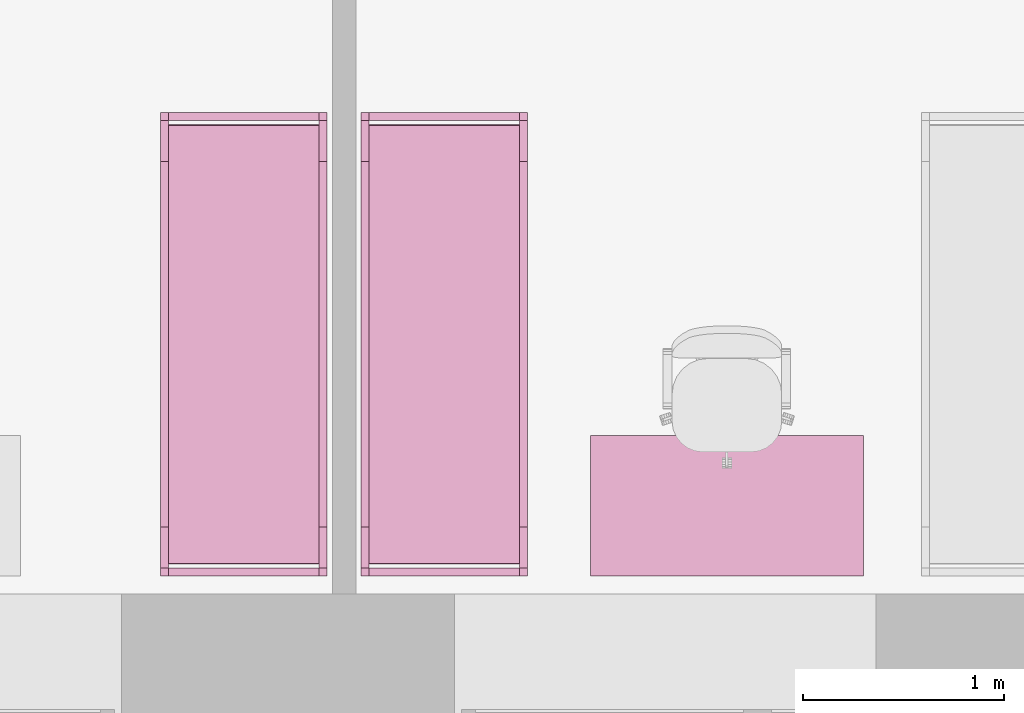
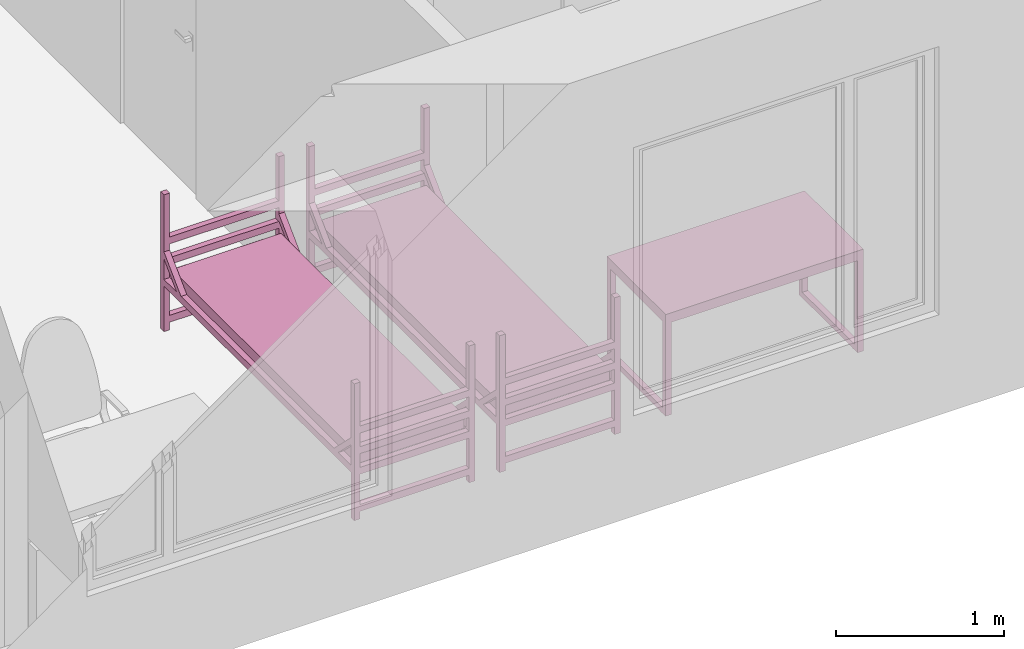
# One storey, part 35 of 46: 3 furnishings.
"""IFC2X3 building model written with IfcOpenShell, lengths in millimetres."""

from ifc_helpers import new_model, entity, si_unit, converted_unit, derived_unit, direction, frame, frame_2d, origin, origin_2d_with_axis, place, context, subcontext, project, spatial, polyline, circle_curve, parameter, trimmed, segment, composite_curve, rectangle, outline, extrude, faceted_brep, source, transform, mapped, material, material_list, type_object, type_shapes, element, save


model = new_model("IFC2X3")

# Units and contexts
model_context = context("Model", 3, precision=0.01, world=origin(), true_north=direction((6.12303176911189e-17, 1.0)))
body_context = subcontext(model_context, "Body", "Model", "MODEL_VIEW")
ifc_project = project(units=[si_unit("LENGTHUNIT", "METRE", prefix="MILLI"), si_unit("AREAUNIT", "SQUARE_METRE"), si_unit("VOLUMEUNIT", "CUBIC_METRE"), converted_unit("PLANEANGLEUNIT", "DEGREE", entity("IfcRatioMeasure", 0.0174532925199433), si_unit("PLANEANGLEUNIT", "RADIAN"), dimensions=[0, 0, 0, 0, 0, 0, 0]), si_unit("MASSUNIT", "GRAM", prefix="KILO"), derived_unit("MASSDENSITYUNIT", [(si_unit("MASSUNIT", "GRAM", prefix="KILO"), 1), (si_unit("LENGTHUNIT", "METRE"), -3)]), si_unit("TIMEUNIT", "SECOND"), si_unit("FREQUENCYUNIT", "HERTZ"), si_unit("THERMODYNAMICTEMPERATUREUNIT", "DEGREE_CELSIUS"), derived_unit("THERMALTRANSMITTANCEUNIT", [(si_unit("MASSUNIT", "GRAM", prefix="KILO"), 1), (si_unit("THERMODYNAMICTEMPERATUREUNIT", "KELVIN"), -1), (si_unit("TIMEUNIT", "SECOND"), -3)]), derived_unit("VOLUMETRICFLOWRATEUNIT", [(si_unit("LENGTHUNIT", "METRE"), 3), (si_unit("TIMEUNIT", "SECOND"), -1)]), si_unit("ELECTRICCURRENTUNIT", "AMPERE"), si_unit("ELECTRICVOLTAGEUNIT", "VOLT"), si_unit("POWERUNIT", "WATT"), si_unit("FORCEUNIT", "NEWTON", prefix="KILO"), si_unit("ILLUMINANCEUNIT", "LUX"), si_unit("LUMINOUSFLUXUNIT", "LUMEN"), si_unit("LUMINOUSINTENSITYUNIT", "CANDELA"), derived_unit("USERDEFINED", [(si_unit("MASSUNIT", "GRAM", prefix="KILO"), -1), (si_unit("LENGTHUNIT", "METRE"), -2), (si_unit("TIMEUNIT", "SECOND"), 3), (si_unit("LUMINOUSFLUXUNIT", "LUMEN"), 1)]), derived_unit("LINEARVELOCITYUNIT", [(si_unit("LENGTHUNIT", "METRE"), 1), (si_unit("TIMEUNIT", "SECOND"), -1)]), si_unit("PRESSUREUNIT", "PASCAL"), derived_unit("USERDEFINED", [(si_unit("LENGTHUNIT", "METRE"), -2), (si_unit("MASSUNIT", "GRAM", prefix="KILO"), 1), (si_unit("TIMEUNIT", "SECOND"), -2)]), derived_unit("LINEARFORCEUNIT", [(si_unit("MASSUNIT", "GRAM", prefix="KILO"), 1), (si_unit("LENGTHUNIT", "METRE"), 1), (si_unit("TIMEUNIT", "SECOND"), -2), (si_unit("LENGTHUNIT", "METRE"), -1)]), derived_unit("PLANARFORCEUNIT", [(si_unit("MASSUNIT", "GRAM", prefix="KILO"), 1), (si_unit("LENGTHUNIT", "METRE"), 1), (si_unit("TIMEUNIT", "SECOND"), -2), (si_unit("LENGTHUNIT", "METRE"), -2)])], contexts=[model_context])

# Site, building, storey, space
site_placement = place(None, origin())
site = spatial("IfcSite", under=ifc_project, at=site_placement, Name="Default", CompositionType="ELEMENT")
building_placement = place(site_placement, origin())
building = spatial("IfcBuilding", under=site, at=building_placement, Name="SMA ARH", CompositionType="ELEMENT")
storey_placement = place(building_placement, origin())
storey = spatial("IfcBuildingStorey", under=building, at=storey_placement, Name="1 Korrus", CompositionType="ELEMENT", Elevation=0.0)
space_1_placement = place(storey_placement, origin())
space_1 = spatial("IfcSpace", under=storey, at=space_1_placement, Name="1-9", CompositionType="ELEMENT", InteriorOrExteriorSpace="INTERNAL")

# Furnishing
ifc_material_1 = material(Name="Madrats")
furniture_type_1 = type_object("IfcFurnitureType", Name="Kasarmu voodi ühekordne 2308x830:Kasarmu voodi ühekordne 2308x830", material=ifc_material_1)
shared_shape_1 = source(origin(), body_context, "Body", "SweptSolid", [
    extrude(rectangle(XDim=39.9999999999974, YDim=750.000000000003, at=frame_2d((-1.35003119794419e-13, -2.8421709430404e-14), x_axis=(1.0, 0.0))), frame((1.68638457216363, -1226.7969571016, 55.0), z_axis=(0.0, 0.0, 1.0), x_axis=(0.0, -1.0, 0.0)), (0.0, 0.0, 1.0), 49.9999999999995),
    extrude(rectangle(XDim=39.9999999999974, YDim=750.000000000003, at=frame_2d((-1.35003119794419e-13, -2.8421709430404e-14), x_axis=(1.0, 0.0))), frame((1.68638457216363, -1226.7969571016, 325.0), z_axis=(0.0, 0.0, 1.0), x_axis=(0.0, -1.0, 0.0)), (0.0, 0.0, 1.0), 49.9999999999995),
    extrude(rectangle(XDim=39.9999999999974, YDim=750.000000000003, at=frame_2d((-1.35003119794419e-13, -2.8421709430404e-14), x_axis=(1.0, 0.0))), frame((1.68638457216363, -1226.7969571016, 475.0), z_axis=(0.0, 0.0, 1.0), x_axis=(0.0, -1.0, 0.0)), (0.0, 0.0, 1.0), 49.9999999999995),
    extrude(rectangle(XDim=39.9999999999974, YDim=750.000000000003, at=frame_2d((-1.35003119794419e-13, -2.8421709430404e-14), x_axis=(1.0, 0.0))), frame((1.68638457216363, -1226.7969571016, 625.0), z_axis=(0.0, 0.0, 1.0), x_axis=(0.0, -1.0, 0.0)), (0.0, 0.0, 1.0), 50.0000000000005),
    extrude(rectangle(XDim=39.9999999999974, YDim=750.000000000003, at=frame_2d((1.35003119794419e-13, -2.8421709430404e-14), x_axis=(1.0, 0.0))), frame((1.68638457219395, 1041.2030428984, 55.0), z_axis=(0.0, 0.0, 1.0), x_axis=(0.0, -1.0, 0.0)), (0.0, 0.0, 1.0), 50.0000000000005),
    extrude(rectangle(XDim=39.9999999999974, YDim=750.000000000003, at=frame_2d((1.35003119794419e-13, -2.8421709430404e-14), x_axis=(1.0, 0.0))), frame((1.68638457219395, 1041.2030428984, 325.0), z_axis=(0.0, 0.0, 1.0), x_axis=(0.0, -1.0, 0.0)), (0.0, 0.0, 1.0), 50.0000000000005),
    extrude(rectangle(XDim=39.9999999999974, YDim=750.000000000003, at=frame_2d((1.35003119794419e-13, -2.8421709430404e-14), x_axis=(1.0, 0.0))), frame((1.68638457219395, 1041.2030428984, 475.0), z_axis=(0.0, 0.0, 1.0), x_axis=(0.0, -1.0, 0.0)), (0.0, 0.0, 1.0), 50.0000000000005),
    extrude(rectangle(XDim=39.9999999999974, YDim=750.000000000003, at=frame_2d((1.35003119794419e-13, -2.8421709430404e-14), x_axis=(1.0, 0.0))), frame((1.68638457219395, 1041.2030428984, 625.0), z_axis=(0.0, 0.0, 1.0), x_axis=(0.0, -1.0, 0.0)), (0.0, 0.0, 1.0), 49.9999999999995),
    extrude(outline(composite_curve([segment(trimmed(circle_curve(frame_2d((1085.0, -40.0), x_axis=(1.0, 0.0)), 10.0), [parameter(270.0)], [parameter(0.0)], True, "PARAMETER"), True, "CONTINUOUS"), segment(polyline([(1095.0, -40.0), (1095.0, 40.0)]), True, "CONTINUOUS"), segment(trimmed(circle_curve(frame_2d((1085.0, 40.0), x_axis=(1.0, 0.0)), 10.0), [parameter(0.0)], [parameter(90.0000000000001)], True, "PARAMETER"), True, "CONTINUOUS"), segment(polyline([(1085.0, 50.0), (-1085.0, 50.0)]), True, "CONTINUOUS"), segment(trimmed(circle_curve(frame_2d((-1085.0, 40.0), x_axis=(1.0, 0.0)), 10.0), [parameter(90.0000000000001)], [parameter(180.0)], True, "PARAMETER"), True, "CONTINUOUS"), segment(polyline([(-1095.0, 40.0), (-1095.0, -40.0)]), True, "CONTINUOUS"), segment(trimmed(circle_curve(frame_2d((-1085.0, -40.0), x_axis=(1.0, 0.0)), 10.0), [parameter(180.0)], [parameter(270.0)], True, "PARAMETER"), True, "CONTINUOUS"), segment(polyline([(-1085.0, -50.0), (1085.0, -50.0)]), True, "CONTINUOUS")], self_intersect=False)), frame((-373.313615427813, -92.7969571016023, 405.0), z_axis=(1.0, 0.0, 0.0), x_axis=(0.0, -1.0, 0.0)), (0.0, 0.0, 1.0), 750.000000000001),
    extrude(outline(polyline([(-1114.0, -100.0), (1114.0, -100.0), (1114.0, -50.0), (961.59199141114, -50.0), (1114.0, 100.0), (1114.0, 150.0), (910.789321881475, -50.0), (-910.789321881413, -50.0), (-1114.0, 150.0), (-1114.0, 100.0), (-961.591991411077, -50.0), (-1114.0, -50.0), (-1114.0, -100.0)])), frame((-413.313615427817, -92.7969571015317, 430.0), z_axis=(1.0, 0.0, 0.0), x_axis=(0.0, 1.0, 0.0)), (0.0, 0.0, 1.0), 39.9999999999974),
    extrude(outline(polyline([(-1114.0, -100.0), (1114.0, -100.0), (1114.0, -50.0), (961.591991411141, -50.0), (1114.0, 100.0), (1114.0, 150.0), (910.789321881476, -50.0), (-910.789321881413, -50.0), (-1114.0, 150.0), (-1114.0, 100.0), (-961.591991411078, -50.0), (-1114.0, -50.0), (-1114.0, -100.0)])), frame((376.686384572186, -92.796957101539, 430.0), z_axis=(1.0, 0.0, 0.0), x_axis=(0.0, 1.0, 0.0)), (0.0, 0.0, 1.0), 39.9999999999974),
    extrude(rectangle(XDim=39.9999999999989, YDim=39.9999999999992, at=frame_2d((-6.75015598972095e-14, 0.0), x_axis=(1.0, 0.0))), frame((396.686384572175, -1226.79695710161, 0.0), z_axis=(0.0, 0.0, 1.0), x_axis=(0.0, 1.0, 0.0)), (0.0, 0.0, 1.0), 995.0),
    extrude(rectangle(XDim=39.9999999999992, YDim=39.9999999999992, at=frame_2d((-1.35003119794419e-13, 0.0), x_axis=(1.0, 0.0))), frame((396.686384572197, 1041.20304289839, 0.0), z_axis=(0.0, 0.0, 1.0), x_axis=(0.0, 1.0, 0.0)), (0.0, 0.0, 1.0), 995.0),
    extrude(rectangle(XDim=40.0000000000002, YDim=39.9999999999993, at=frame_2d((-1.35003119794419e-13, 0.0), x_axis=(1.0, 0.0))), frame((-393.313615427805, 1041.2030428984, 0.0), z_axis=(0.0, 0.0, 1.0), x_axis=(0.0, 1.0, 0.0)), (0.0, 0.0, 1.0), 995.0),
    extrude(rectangle(XDim=39.9999999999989, YDim=39.9999999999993, at=frame_2d((-6.75015598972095e-14, 0.0), x_axis=(1.0, 0.0))), frame((-393.313615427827, -1226.7969571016, 0.0), z_axis=(0.0, 0.0, 1.0), x_axis=(0.0, 1.0, 0.0)), (0.0, 0.0, 1.0), 995.0),
])
type_shapes(furniture_type_1, [shared_shape_1])
furnishing_1_placement = place(space_1_placement, frame((19032.1863845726, 1151.20304289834, 0.0), z_axis=(0.0, 0.0, 1.0), x_axis=(-1.0, 0.0, 0.0)))
element("IfcFurnishingElement", 1, at=furnishing_1_placement, inside=space_1, type_object=furniture_type_1, material=ifc_material_1, Name="Kasarmu voodi ühekordne 2308x830:Kasarmu voodi ühekordne 2308x830", ObjectType="Kasarmu voodi ühekordne 2308x830:Kasarmu voodi ühekordne 2308x830", context=body_context, shape_type="MappedRepresentation", body=[
    mapped(shared_shape_1, transform((0.0, 0.0, 0.0), scale=1.0)),
])

# Space
space_2_placement = place(storey_placement, origin())
space_2 = spatial("IfcSpace", under=storey, at=space_2_placement, Name="1-8", CompositionType="ELEMENT", InteriorOrExteriorSpace="INTERNAL")

# Furnishings
ifc_material_2 = material(Name="<Unnamed>")
ifc_material_list = material_list([ifc_material_2, ifc_material_2])
furniture_type_2 = type_object("IfcFurnitureType", Name="kirjutuslaud 1360x700mm:kirjutuslaud 1360x700mm", material=ifc_material_list)
shared_shape_2 = source(origin(), body_context, "Body", "Brep", [
    faceted_brep([(680.0, -350.0, 720.0), (680.0, 350.0, 720.0), (680.0, 350.0, 750.0), (680.0, -350.0, 750.0), (-680.0, -350.0, 720.0), (-680.0, -350.0, 750.0), (-680.0, 350.0, 750.0), (-680.0, 350.0, 720.0)], [[[0, 1, 2, 3]], [[4, 5, 6, 7]], [[1, 0, 4, 7]], [[2, 1, 7, 6]], [[3, 2, 6, 5]], [[0, 3, 5, 4]]]),
    faceted_brep([(-640.0, -310.0, 680.0), (-640.0, 310.0, 680.0), (-640.0, 310.0, 720.0), (-640.0, -310.0, 720.0), (-680.0, -350.0, 720.0), (-680.0, 350.0, 720.0), (-680.0, 350.0, 10.0), (-680.0, -350.0, 10.0), (-680.0, 310.0, 680.0), (-680.0, -310.0, 680.0), (-680.0, -310.0, 50.0), (-680.0, 310.0, 50.0), (-640.0, -350.0, 10.0), (-640.0, -350.0, 680.0), (640.0, -350.0, 680.0), (640.0, -350.0, 10.0), (680.0, -350.0, 10.0), (680.0, -350.0, 720.0), (-640.0, 350.0, 10.0), (680.0, 350.0, 720.0), (680.0, 350.0, 10.0), (640.0, 350.0, 10.0), (640.0, 350.0, 680.0), (-640.0, 350.0, 680.0), (640.0, 310.0, 720.0), (640.0, -310.0, 720.0), (-640.0, 310.0, 50.0), (-640.0, -310.0, 50.0), (640.0, -310.0, 680.0), (640.0, 310.0, 680.0), (680.0, 310.0, 680.0), (680.0, 310.0, 50.0), (680.0, -310.0, 50.0), (680.0, -310.0, 680.0), (640.0, -310.0, 50.0), (640.0, 310.0, 50.0)], [[[0, 1, 2, 3]], [[4, 5, 6, 7], [8, 9, 10, 11]], [[4, 7, 12, 13, 14, 15, 16, 17]], [[18, 12, 7, 6]], [[6, 5, 19, 20, 21, 22, 23, 18]], [[19, 5, 4, 17], [2, 24, 25, 3]], [[26, 1, 8, 11]], [[27, 26, 11, 10]], [[0, 27, 10, 9]], [[1, 0, 9, 8]], [[14, 13, 0, 28]], [[24, 2, 1, 29]], [[3, 25, 28, 0]], [[17, 16, 20, 19], [30, 31, 32, 33]], [[21, 15, 14, 28, 34, 35, 29, 22]], [[20, 16, 15, 21]], [[31, 30, 29, 35]], [[32, 31, 35, 34]], [[33, 32, 34, 28]], [[30, 33, 28, 29]], [[29, 28, 25, 24]], [[29, 1, 23, 22]], [[12, 18, 23, 1, 26, 27, 0, 13]]]),
    faceted_brep([(-663.729456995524, -270.466136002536, 0.0), (-659.847171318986, -269.955023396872, 0.0), (-655.964885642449, -270.466136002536, 0.0), (-652.347171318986, -271.964642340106, 0.0), (-649.240569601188, -274.348421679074, 0.0), (-646.85679026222, -277.455023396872, 0.0), (-645.35828392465, -281.072737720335, 0.0), (-644.847171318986, -284.955023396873, 0.0), (-645.35828392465, -288.83730907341, 0.0), (-646.85679026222, -292.455023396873, 0.0), (-649.240569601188, -295.561625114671, 0.0), (-652.347171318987, -297.945404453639, 0.0), (-655.964885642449, -299.443910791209, 0.0), (-659.847171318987, -299.955023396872, 0.0), (-663.729456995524, -299.443910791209, 0.0), (-667.347171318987, -297.945404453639, 0.0), (-670.453773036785, -295.561625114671, 0.0), (-672.837552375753, -292.455023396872, 0.0), (-674.336058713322, -288.83730907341, 0.0), (-674.847171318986, -284.955023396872, 0.0), (-674.336058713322, -281.072737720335, 0.0), (-672.837552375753, -277.455023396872, 0.0), (-670.453773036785, -274.348421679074, 0.0), (-667.347171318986, -271.964642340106, 0.0), (-655.964885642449, -299.443910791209, 10.0), (-652.347171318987, -297.945404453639, 10.0), (-649.240569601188, -295.561625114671, 10.0), (-646.85679026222, -292.455023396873, 10.0), (-645.35828392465, -288.83730907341, 10.0), (-644.847171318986, -284.955023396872, 10.0), (-645.35828392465, -281.072737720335, 10.0), (-646.85679026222, -277.455023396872, 10.0), (-649.240569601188, -274.348421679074, 10.0), (-652.347171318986, -271.964642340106, 10.0), (-655.964885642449, -270.466136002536, 10.0), (-659.847171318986, -269.955023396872, 10.0), (-663.729456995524, -270.466136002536, 10.0), (-667.347171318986, -271.964642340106, 10.0), (-670.453773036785, -274.348421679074, 10.0), (-672.837552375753, -277.455023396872, 10.0), (-674.336058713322, -281.072737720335, 10.0), (-674.847171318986, -284.955023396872, 10.0), (-674.336058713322, -288.83730907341, 10.0), (-672.837552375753, -292.455023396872, 10.0), (-670.453773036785, -295.561625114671, 10.0), (-667.347171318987, -297.945404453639, 10.0), (-663.729456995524, -299.443910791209, 10.0), (-659.847171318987, -299.955023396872, 10.0)], [[[0, 1, 2, 3, 4, 5, 6, 7, 8, 9, 10, 11, 12, 13, 14, 15, 16, 17, 18, 19, 20, 21, 22, 23]], [[24, 25, 26, 27, 28, 29, 30, 31, 32, 33, 34, 35, 36, 37, 38, 39, 40, 41, 42, 43, 44, 45, 46, 47]], [[18, 42, 41, 19]], [[17, 43, 42, 18]], [[45, 44, 16, 15]], [[17, 16, 44, 43]], [[46, 45, 15, 14]], [[47, 46, 14, 13]], [[12, 24, 47, 13]], [[11, 25, 24, 12]], [[27, 26, 10, 9]], [[11, 10, 26, 25]], [[28, 27, 9, 8]], [[29, 28, 8, 7]], [[6, 30, 29, 7]], [[5, 31, 30, 6]], [[33, 32, 4, 3]], [[5, 4, 32, 31]], [[34, 33, 3, 2]], [[35, 34, 2, 1]], [[0, 36, 35, 1]], [[23, 37, 36, 0]], [[39, 38, 22, 21]], [[23, 22, 38, 37]], [[40, 39, 21, 20]], [[41, 40, 20, 19]]]),
    faceted_brep([(-655.964885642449, 270.466136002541, 10.0), (-652.347171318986, 271.964642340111, 10.0), (-649.240569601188, 274.348421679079, 10.0), (-646.85679026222, 277.455023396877, 10.0), (-645.35828392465, 281.07273772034, 10.0), (-644.847171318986, 284.955023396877, 10.0), (-645.35828392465, 288.837309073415, 10.0), (-646.85679026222, 292.455023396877, 10.0), (-649.240569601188, 295.561625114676, 10.0), (-652.347171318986, 297.945404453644, 10.0), (-655.964885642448, 299.443910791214, 10.0), (-659.847171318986, 299.955023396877, 10.0), (-663.729456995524, 299.443910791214, 10.0), (-667.347171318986, 297.945404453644, 10.0), (-670.453773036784, 295.561625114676, 10.0), (-672.837552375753, 292.455023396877, 10.0), (-674.336058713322, 288.837309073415, 10.0), (-674.847171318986, 284.955023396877, 10.0), (-674.336058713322, 281.07273772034, 10.0), (-672.837552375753, 277.455023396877, 10.0), (-670.453773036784, 274.348421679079, 10.0), (-667.347171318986, 271.964642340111, 10.0), (-663.729456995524, 270.466136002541, 10.0), (-659.847171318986, 269.955023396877, 10.0), (-655.964885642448, 299.443910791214, 0.0), (-652.347171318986, 297.945404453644, 0.0), (-649.240569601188, 295.561625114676, 0.0), (-646.85679026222, 292.455023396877, 0.0), (-645.35828392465, 288.837309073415, 0.0), (-644.847171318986, 284.955023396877, 0.0), (-645.35828392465, 281.07273772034, 0.0), (-646.85679026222, 277.455023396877, 0.0), (-649.240569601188, 274.348421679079, 0.0), (-652.347171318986, 271.964642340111, 0.0), (-655.964885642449, 270.466136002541, 0.0), (-659.847171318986, 269.955023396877, 0.0), (-663.729456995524, 270.466136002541, 0.0), (-667.347171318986, 271.964642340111, 0.0), (-670.453773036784, 274.348421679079, 0.0), (-672.837552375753, 277.455023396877, 0.0), (-674.336058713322, 281.07273772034, 0.0), (-674.847171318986, 284.955023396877, 0.0), (-674.336058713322, 288.837309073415, 0.0), (-672.837552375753, 292.455023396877, 0.0), (-670.453773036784, 295.561625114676, 0.0), (-667.347171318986, 297.945404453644, 0.0), (-663.729456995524, 299.443910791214, 0.0), (-659.847171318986, 299.955023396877, 0.0)], [[[0, 1, 2, 3, 4, 5, 6, 7, 8, 9, 10, 11, 12, 13, 14, 15, 16, 17, 18, 19, 20, 21, 22, 23]], [[24, 25, 26, 27, 28, 29, 30, 31, 32, 33, 34, 35, 36, 37, 38, 39, 40, 41, 42, 43, 44, 45, 46, 47]], [[40, 18, 17, 41]], [[39, 19, 18, 40]], [[21, 20, 38, 37]], [[39, 38, 20, 19]], [[22, 21, 37, 36]], [[23, 22, 36, 35]], [[34, 0, 23, 35]], [[33, 1, 0, 34]], [[3, 2, 32, 31]], [[33, 32, 2, 1]], [[4, 3, 31, 30]], [[5, 4, 30, 29]], [[28, 6, 5, 29]], [[27, 7, 6, 28]], [[9, 8, 26, 25]], [[27, 26, 8, 7]], [[10, 9, 25, 24]], [[11, 10, 24, 47]], [[46, 12, 11, 47]], [[45, 13, 12, 46]], [[15, 14, 44, 43]], [[45, 44, 14, 13]], [[16, 15, 43, 42]], [[17, 16, 42, 41]]]),
    faceted_brep([(656.270543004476, -270.466136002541, 0.0), (660.152828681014, -269.955023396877, 0.0), (664.035114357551, -270.466136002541, 0.0), (667.652828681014, -271.96464234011, 0.0), (670.759430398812, -274.348421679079, 0.0), (673.14320973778, -277.455023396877, 0.0), (674.64171607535, -281.072737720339, 0.0), (675.152828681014, -284.955023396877, 0.0), (674.64171607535, -288.837309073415, 0.0), (673.14320973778, -292.455023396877, 0.0), (670.759430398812, -295.561625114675, 0.0), (667.652828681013, -297.945404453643, 0.0), (664.035114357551, -299.443910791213, 0.0), (660.152828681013, -299.955023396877, 0.0), (656.270543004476, -299.443910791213, 0.0), (652.652828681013, -297.945404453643, 0.0), (649.546226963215, -295.561625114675, 0.0), (647.162447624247, -292.455023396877, 0.0), (645.663941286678, -288.837309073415, 0.0), (645.152828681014, -284.955023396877, 0.0), (645.663941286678, -281.072737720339, 0.0), (647.162447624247, -277.455023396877, 0.0), (649.546226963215, -274.348421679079, 0.0), (652.652828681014, -271.96464234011, 0.0), (664.035114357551, -299.443910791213, 10.0), (667.652828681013, -297.945404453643, 10.0), (670.759430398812, -295.561625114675, 10.0), (673.14320973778, -292.455023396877, 10.0), (674.64171607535, -288.837309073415, 10.0), (675.152828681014, -284.955023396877, 10.0), (674.64171607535, -281.072737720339, 10.0), (673.14320973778, -277.455023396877, 10.0), (670.759430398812, -274.348421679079, 10.0), (667.652828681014, -271.96464234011, 10.0), (664.035114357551, -270.466136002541, 10.0), (660.152828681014, -269.955023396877, 10.0), (656.270543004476, -270.466136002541, 10.0), (652.652828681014, -271.96464234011, 10.0), (649.546226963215, -274.348421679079, 10.0), (647.162447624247, -277.455023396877, 10.0), (645.663941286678, -281.072737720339, 10.0), (645.152828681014, -284.955023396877, 10.0), (645.663941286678, -288.837309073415, 10.0), (647.162447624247, -292.455023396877, 10.0), (649.546226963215, -295.561625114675, 10.0), (652.652828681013, -297.945404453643, 10.0), (656.270543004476, -299.443910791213, 10.0), (660.152828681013, -299.955023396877, 10.0)], [[[0, 1, 2, 3, 4, 5, 6, 7, 8, 9, 10, 11, 12, 13, 14, 15, 16, 17, 18, 19, 20, 21, 22, 23]], [[24, 25, 26, 27, 28, 29, 30, 31, 32, 33, 34, 35, 36, 37, 38, 39, 40, 41, 42, 43, 44, 45, 46, 47]], [[18, 42, 41, 19]], [[17, 43, 42, 18]], [[45, 44, 16, 15]], [[17, 16, 44, 43]], [[46, 45, 15, 14]], [[47, 46, 14, 13]], [[12, 24, 47, 13]], [[11, 25, 24, 12]], [[27, 26, 10, 9]], [[11, 10, 26, 25]], [[28, 27, 9, 8]], [[29, 28, 8, 7]], [[6, 30, 29, 7]], [[5, 31, 30, 6]], [[33, 32, 4, 3]], [[5, 4, 32, 31]], [[34, 33, 3, 2]], [[35, 34, 2, 1]], [[0, 36, 35, 1]], [[23, 37, 36, 0]], [[39, 38, 22, 21]], [[23, 22, 38, 37]], [[40, 39, 21, 20]], [[41, 40, 20, 19]]]),
    faceted_brep([(664.035114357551, 270.466136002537, 10.0), (667.652828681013, 271.964642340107, 10.0), (670.759430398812, 274.348421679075, 10.0), (673.14320973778, 277.455023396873, 10.0), (674.64171607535, 281.072737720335, 10.0), (675.152828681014, 284.955023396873, 10.0), (674.64171607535, 288.837309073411, 10.0), (673.14320973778, 292.455023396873, 10.0), (670.759430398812, 295.561625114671, 10.0), (667.652828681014, 297.94540445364, 10.0), (664.035114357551, 299.443910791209, 10.0), (660.152828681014, 299.955023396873, 10.0), (656.270543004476, 299.443910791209, 10.0), (652.652828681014, 297.94540445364, 10.0), (649.546226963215, 295.561625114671, 10.0), (647.162447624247, 292.455023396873, 10.0), (645.663941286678, 288.837309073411, 10.0), (645.152828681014, 284.955023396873, 10.0), (645.663941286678, 281.072737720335, 10.0), (647.162447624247, 277.455023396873, 10.0), (649.546226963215, 274.348421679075, 10.0), (652.652828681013, 271.964642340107, 10.0), (656.270543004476, 270.466136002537, 10.0), (660.152828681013, 269.955023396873, 10.0), (664.035114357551, 299.443910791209, 0.0), (667.652828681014, 297.94540445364, 0.0), (670.759430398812, 295.561625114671, 0.0), (673.14320973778, 292.455023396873, 0.0), (674.64171607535, 288.837309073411, 0.0), (675.152828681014, 284.955023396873, 0.0), (674.64171607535, 281.072737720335, 0.0), (673.14320973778, 277.455023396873, 0.0), (670.759430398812, 274.348421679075, 0.0), (667.652828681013, 271.964642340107, 0.0), (664.035114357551, 270.466136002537, 0.0), (660.152828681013, 269.955023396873, 0.0), (656.270543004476, 270.466136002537, 0.0), (652.652828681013, 271.964642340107, 0.0), (649.546226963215, 274.348421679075, 0.0), (647.162447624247, 277.455023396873, 0.0), (645.663941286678, 281.072737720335, 0.0), (645.152828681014, 284.955023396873, 0.0), (645.663941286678, 288.837309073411, 0.0), (647.162447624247, 292.455023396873, 0.0), (649.546226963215, 295.561625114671, 0.0), (652.652828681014, 297.94540445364, 0.0), (656.270543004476, 299.443910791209, 0.0), (660.152828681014, 299.955023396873, 0.0)], [[[0, 1, 2, 3, 4, 5, 6, 7, 8, 9, 10, 11, 12, 13, 14, 15, 16, 17, 18, 19, 20, 21, 22, 23]], [[24, 25, 26, 27, 28, 29, 30, 31, 32, 33, 34, 35, 36, 37, 38, 39, 40, 41, 42, 43, 44, 45, 46, 47]], [[40, 18, 17, 41]], [[39, 19, 18, 40]], [[21, 20, 38, 37]], [[39, 38, 20, 19]], [[22, 21, 37, 36]], [[23, 22, 36, 35]], [[34, 0, 23, 35]], [[33, 1, 0, 34]], [[3, 2, 32, 31]], [[33, 32, 2, 1]], [[4, 3, 31, 30]], [[5, 4, 30, 29]], [[28, 6, 5, 29]], [[27, 7, 6, 28]], [[9, 8, 26, 25]], [[27, 26, 8, 7]], [[10, 9, 25, 24]], [[11, 10, 24, 47]], [[46, 12, 11, 47]], [[45, 13, 12, 46]], [[15, 14, 44, 43]], [[45, 44, 14, 13]], [[16, 15, 43, 42]], [[17, 16, 42, 41]]]),
])
type_shapes(furniture_type_2, [shared_shape_2])
furnishing_2_placement = place(space_2_placement, frame((21437.0, 440.0, 0.0)))
element("IfcFurnishingElement", 2, at=furnishing_2_placement, inside=space_2, type_object=furniture_type_2, Name="kirjutuslaud 1360x700mm:kirjutuslaud 1360x700mm", ObjectType="kirjutuslaud 1360x700mm:kirjutuslaud 1360x700mm", context=body_context, shape_type="MappedRepresentation", body=[
    mapped(shared_shape_2, transform((0.0, 0.0, 0.0), scale=1.0)),
])
furniture_type_3 = type_object("IfcFurnitureType", Name="Kasarmu voodi ühekordne 2308x830:Kasarmu voodi ühekordne 2308x830", material=ifc_material_1)
shared_shape_3 = source(origin(), body_context, "Body", "SweptSolid", [
    extrude(rectangle(XDim=750.000000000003, YDim=39.9999999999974, at=frame_2d((0.0, 1.35003119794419e-13), x_axis=(1.0, 0.0))), frame((1.68638457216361, 1226.7969571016, 55.0)), (0.0, 0.0, 1.0), 49.9999999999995),
    extrude(rectangle(XDim=750.000000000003, YDim=39.9999999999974, at=frame_2d((0.0, 1.35003119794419e-13), x_axis=(1.0, 0.0))), frame((1.68638457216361, 1226.7969571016, 325.0)), (0.0, 0.0, 1.0), 49.9999999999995),
    extrude(rectangle(XDim=750.000000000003, YDim=39.9999999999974, at=frame_2d((0.0, 1.35003119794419e-13), x_axis=(1.0, 0.0))), frame((1.68638457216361, 1226.7969571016, 475.0)), (0.0, 0.0, 1.0), 49.9999999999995),
    extrude(rectangle(XDim=750.000000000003, YDim=39.9999999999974, at=frame_2d((0.0, 1.35003119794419e-13), x_axis=(1.0, 0.0))), frame((1.68638457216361, 1226.7969571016, 625.0)), (0.0, 0.0, 1.0), 50.0000000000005),
    extrude(rectangle(XDim=750.000000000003, YDim=39.9999999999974, at=origin_2d_with_axis()), frame((1.68638457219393, -1041.2030428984, 55.0)), (0.0, 0.0, 1.0), 50.0000000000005),
    extrude(rectangle(XDim=750.000000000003, YDim=39.9999999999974, at=origin_2d_with_axis()), frame((1.68638457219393, -1041.2030428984, 325.0)), (0.0, 0.0, 1.0), 50.0000000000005),
    extrude(rectangle(XDim=750.000000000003, YDim=39.9999999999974, at=origin_2d_with_axis()), frame((1.68638457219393, -1041.2030428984, 475.0)), (0.0, 0.0, 1.0), 50.0000000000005),
    extrude(rectangle(XDim=750.000000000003, YDim=39.9999999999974, at=origin_2d_with_axis()), frame((1.68638457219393, -1041.2030428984, 625.0)), (0.0, 0.0, 1.0), 49.9999999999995),
    extrude(outline(composite_curve([segment(polyline([(-1085.0, -50.0), (1085.0, -50.0)]), True, "CONTINUOUS"), segment(trimmed(circle_curve(frame_2d((1085.0, -40.0), x_axis=(-1.0, 0.0)), 10.0), [parameter(90.0000000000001)], [parameter(180.0)], True, "PARAMETER"), True, "CONTINUOUS"), segment(polyline([(1095.0, -40.0), (1095.0, 40.0)]), True, "CONTINUOUS"), segment(trimmed(circle_curve(frame_2d((1085.0, 40.0), x_axis=(-1.0, 0.0)), 10.0), [parameter(180.0)], [parameter(270.0)], True, "PARAMETER"), True, "CONTINUOUS"), segment(polyline([(1085.0, 50.0), (-1085.0, 50.0)]), True, "CONTINUOUS"), segment(trimmed(circle_curve(frame_2d((-1085.0, 40.0), x_axis=(-1.0, 0.0)), 10.0), [parameter(270.0)], [parameter(0.0)], True, "PARAMETER"), True, "CONTINUOUS"), segment(polyline([(-1095.0, 40.0), (-1095.0, -40.0)]), True, "CONTINUOUS"), segment(trimmed(circle_curve(frame_2d((-1085.0, -40.0), x_axis=(-1.0, 0.0)), 10.0), [parameter(0.0)], [parameter(90.0000000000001)], True, "PARAMETER"), True, "CONTINUOUS")], self_intersect=False)), frame((-373.313615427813, 92.7969571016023, 405.0), z_axis=(1.0, 0.0, 0.0), x_axis=(0.0, -1.0, 0.0)), (0.0, 0.0, 1.0), 750.000000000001),
    extrude(outline(polyline([(-100.0, -1114.0), (-50.0, -1114.0), (-50.0, -961.591991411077), (100.0, -1114.0), (150.0, -1114.0), (-50.0, -910.789321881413), (-50.0, 910.789321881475), (150.0, 1114.0), (100.0, 1114.0), (-50.0, 961.591991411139), (-50.0, 1114.0), (-100.0, 1114.0), (-100.0, -1114.0)])), frame((-413.313615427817, 92.7969571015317, 430.0), z_axis=(1.0, 0.0, 0.0), x_axis=(0.0, 0.0, 1.0)), (0.0, 0.0, 1.0), 39.9999999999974),
    extrude(outline(polyline([(-100.0, -1114.0), (-50.0, -1114.0), (-50.0, -961.591991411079), (100.0, -1114.0), (150.0, -1114.0), (-50.0, -910.789321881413), (-50.0, 910.789321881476), (150.0, 1114.0), (100.0, 1114.0), (-50.0, 961.591991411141), (-50.0, 1114.0), (-100.0, 1114.0), (-100.0, -1114.0)])), frame((376.686384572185, 92.796957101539, 430.0), z_axis=(1.0, 0.0, 0.0), x_axis=(0.0, 0.0, 1.0)), (0.0, 0.0, 1.0), 39.9999999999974),
    extrude(rectangle(XDim=39.9999999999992, YDim=39.9999999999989, at=frame_2d((0.0, -6.75015598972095e-14), x_axis=(1.0, 0.0))), frame((396.686384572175, 1226.79695710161, 0.0), z_axis=(0.0, 0.0, 1.0), x_axis=(-1.0, 0.0, 0.0)), (0.0, 0.0, 1.0), 995.0),
    extrude(rectangle(XDim=39.9999999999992, YDim=39.9999999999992, at=origin_2d_with_axis()), frame((396.686384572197, -1041.20304289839, 0.0), z_axis=(0.0, 0.0, 1.0), x_axis=(-1.0, 0.0, 0.0)), (0.0, 0.0, 1.0), 995.0),
    extrude(rectangle(XDim=39.9999999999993, YDim=40.0000000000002, at=origin_2d_with_axis()), frame((-393.313615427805, -1041.2030428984, 0.0), z_axis=(0.0, 0.0, 1.0), x_axis=(-1.0, 0.0, 0.0)), (0.0, 0.0, 1.0), 995.0),
    extrude(rectangle(XDim=39.9999999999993, YDim=39.9999999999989, at=frame_2d((0.0, -6.75015598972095e-14), x_axis=(1.0, 0.0))), frame((-393.313615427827, 1226.7969571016, 0.0), z_axis=(0.0, 0.0, 1.0), x_axis=(-1.0, 0.0, 0.0)), (0.0, 0.0, 1.0), 995.0),
])
type_shapes(furniture_type_3, [shared_shape_3])
furnishing_3_placement = place(space_2_placement, frame((20031.1863845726, 1336.79695710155, 0.0), z_axis=(0.0, 0.0, 1.0), x_axis=(-1.0, 0.0, 0.0)))
element("IfcFurnishingElement", 3, at=furnishing_3_placement, inside=space_2, type_object=furniture_type_3, material=ifc_material_1, Name="Kasarmu voodi ühekordne 2308x830:Kasarmu voodi ühekordne 2308x830", ObjectType="Kasarmu voodi ühekordne 2308x830:Kasarmu voodi ühekordne 2308x830", context=body_context, shape_type="MappedRepresentation", body=[
    mapped(shared_shape_3, transform((0.0, 0.0, 0.0), scale=1.0)),
])

save(model, "model.ifc")
